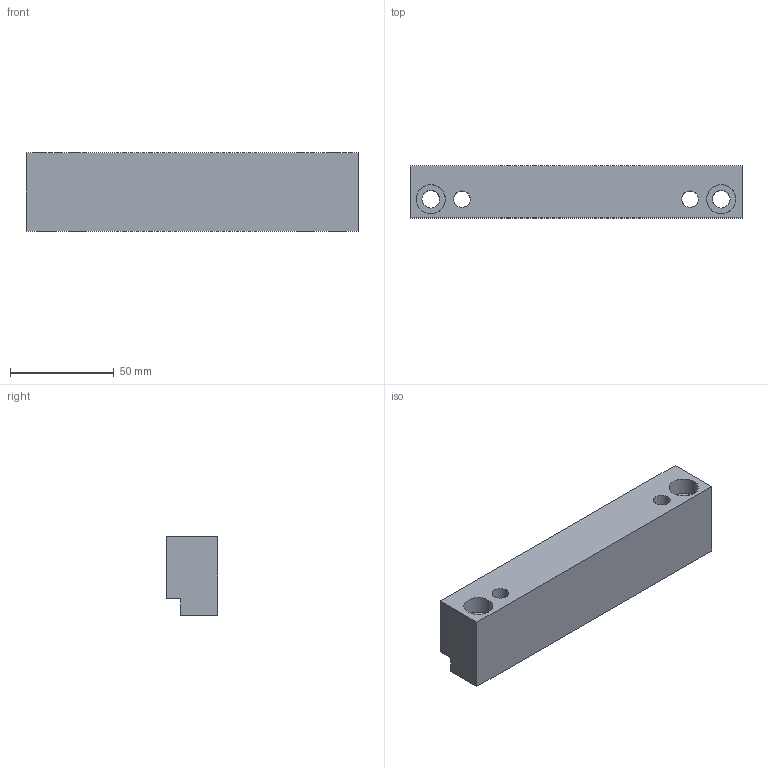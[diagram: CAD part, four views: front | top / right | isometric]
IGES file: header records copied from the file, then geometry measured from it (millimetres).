
Start section: START RECORD GO HERE.
Global section: file name: G40638160.igs; native system: DASSAULT SYSTEMES CATIA V5 R20 - www.3ds.com; preprocessor: CATIA Version 5 Release 20 ; author: r.borello; organization: CFTORINO; date: 20190624.150726; units: millimetre
Bounding box: 160 x 25 x 38 mm (x, y, z)
Surface area: 31067.1 mm2 (no closed solid volume)
Topology: 0 solids, 0 shells, 588 faces, 2470 edges, 2184 vertices
Faces by surface type: revolution 516, plane 72
